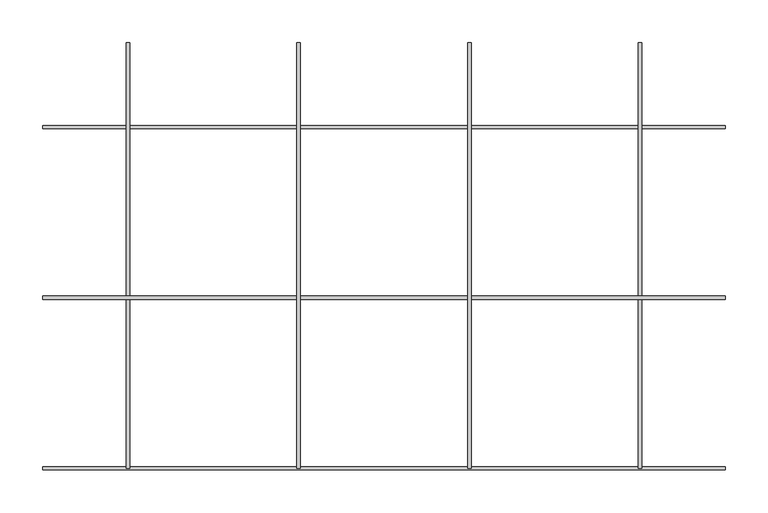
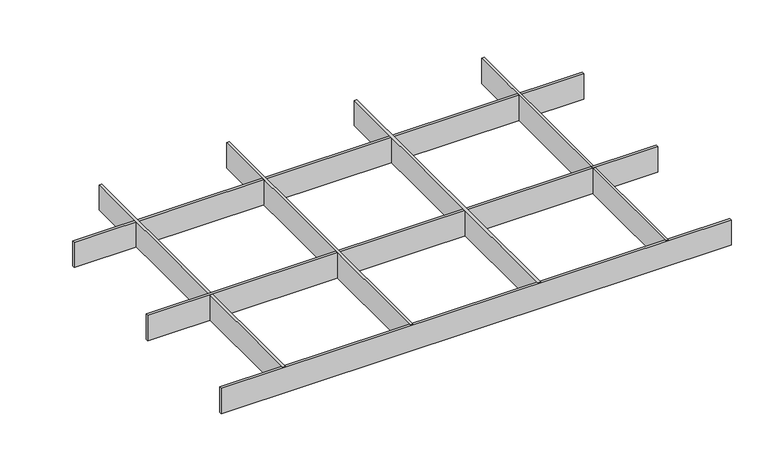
"""IFC4 building model written with IfcOpenShell, lengths in millimetres: proxy geometry, durlum_GEO_panel : durlum_GEO_4_corner_cut."""

from ifc_helpers import new_model, si_unit, origin, origin_with_axes, place, context, project, spatial, polyline, outline, extrude, source, transform, mapped, element, save


def generic_models_892cdaf6(model_context):
    return source(origin(), model_context, "Body", "SweptSolid", [
        extrude(outline(polyline([(98.0, 249.5), (102.0, 249.5), (102.0, -249.5), (98.0, -249.5), (98.0, 249.5)])), origin_with_axes(), (0.0, 0.0, 1.0), 42.0),
        extrude(outline(polyline([(-102.0, 249.5), (-98.0, 249.5), (-98.0, -249.5), (-102.0, -249.5), (-102.0, 249.5)])), origin_with_axes(), (0.0, 0.0, 1.0), 42.0),
        extrude(outline(polyline([(399.75, -47.5), (399.75, -51.5), (-399.75, -51.5), (-399.75, -47.5), (399.75, -47.5)])), origin_with_axes(), (0.0, 0.0, 1.0), 42.0),
        extrude(outline(polyline([(298.0, 249.5), (302.0, 249.5), (302.0, -249.5), (298.0, -249.5), (298.0, 249.5)])), origin_with_axes(), (0.0, 0.0, 1.0), 42.0),
        extrude(outline(polyline([(-302.0, 249.5), (-298.0, 249.5), (-298.0, -249.5), (-302.0, -249.5), (-302.0, 249.5)])), origin_with_axes(), (0.0, 0.0, 1.0), 42.0),
        extrude(outline(polyline([(399.75, -247.5), (399.75, -251.5), (-399.75, -251.5), (-399.75, -247.5), (399.75, -247.5)])), origin_with_axes(), (0.0, 0.0, 1.0), 42.0),
        extrude(outline(polyline([(399.75, 152.5), (399.75, 148.5), (-399.75, 148.5), (-399.75, 152.5), (399.75, 152.5)])), origin_with_axes(), (0.0, 0.0, 1.0), 42.0),
    ])


if __name__ == "__main__":
    model = new_model("IFC4")
    model_context = context("Model", 3, world=origin())
    ifc_project = project(units=[si_unit("LENGTHUNIT", "METRE", prefix="MILLI")], contexts=[model_context])
    site = spatial("IfcSite", under=ifc_project)
    building = spatial("IfcBuilding", under=site)
    placement = place(None, origin())
    generic_models_shape = generic_models_892cdaf6(model_context)
    element("IfcBuildingElementProxy", 1, Name="durlum_GEO_panel : durlum_GEO_4_corner_cut", ObjectType="durlum_GEO_panel : durlum_GEO_4_corner_cut", at=placement, inside=building, context=model_context, shape_type="MappedRepresentation", body=[
        mapped(generic_models_shape, transform((0.0, 0.0, 0.0), x_axis=(1.0, 0.0, 0.0), y_axis=(0.0, 1.0, 0.0), z_axis=(0.0, 0.0, 1.0))),
    ])
    save(model, "model.ifc")
